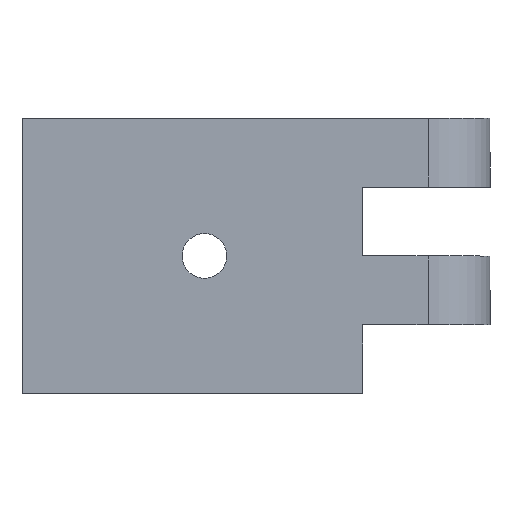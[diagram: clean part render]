
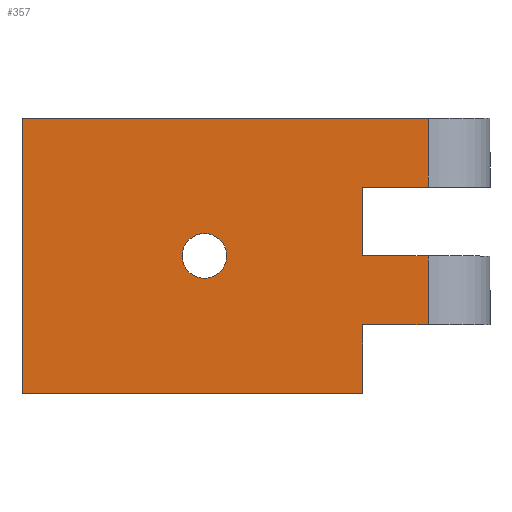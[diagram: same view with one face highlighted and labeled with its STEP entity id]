
A CAD part, top view. The second image highlights one B-rep face of the part: STEP entity #357.
In plain terms, the highlighted planar face has unit normal (0, 0, 1).
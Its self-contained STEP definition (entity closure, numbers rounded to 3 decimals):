
#13=DIRECTION('',(1.,0.,0.));
#14=VECTOR('',#13,49.5);
#15=CARTESIAN_POINT('',(-59.,-20.,0.));
#16=LINE('',#15,#14);
#21=DIRECTION('',(-1.,0.,0.));
#22=VECTOR('',#21,9.5);
#23=CARTESIAN_POINT('',(0.,10.,0.));
#24=LINE('',#23,#22);
#25=DIRECTION('',(0.,-1.,0.));
#26=VECTOR('',#25,10.);
#27=CARTESIAN_POINT('',(-9.5,10.,0.));
#28=LINE('',#27,#26);
#29=DIRECTION('',(-1.,0.,0.));
#30=VECTOR('',#29,9.5);
#31=CARTESIAN_POINT('',(0.,0.,0.));
#32=LINE('',#31,#30);
#33=DIRECTION('',(-1.,0.,0.));
#34=VECTOR('',#33,9.5);
#35=CARTESIAN_POINT('',(0.,-10.,0.));
#36=LINE('',#35,#34);
#37=DIRECTION('',(0.,1.,0.));
#38=VECTOR('',#37,10.);
#39=CARTESIAN_POINT('',(-9.5,-20.,0.));
#40=LINE('',#39,#38);
#41=DIRECTION('',(0.,1.,0.));
#42=VECTOR('',#41,40.);
#43=CARTESIAN_POINT('',(-59.,-20.,0.));
#44=LINE('',#43,#42);
#45=CARTESIAN_POINT('',(-32.5,0.,0.));
#46=DIRECTION('',(0.,0.,-1.));
#47=DIRECTION('',(1.,0.,0.));
#48=AXIS2_PLACEMENT_3D('',#45,#46,#47);
#50=CARTESIAN_POINT('',(-32.5,0.,0.));
#51=DIRECTION('',(0.,0.,-1.));
#52=DIRECTION('',(-1.,0.,0.));
#53=AXIS2_PLACEMENT_3D('',#50,#51,#52);
#70=DIRECTION('',(0.,1.,0.));
#71=VECTOR('',#70,10.);
#72=CARTESIAN_POINT('',(0.,10.,0.));
#73=LINE('',#72,#71);
#84=DIRECTION('',(0.,1.,0.));
#85=VECTOR('',#84,10.);
#86=CARTESIAN_POINT('',(0.,-10.,0.));
#87=LINE('',#86,#85);
#88=DIRECTION('',(1.,0.,0.));
#89=VECTOR('',#88,59.);
#90=CARTESIAN_POINT('',(-59.,20.,0.));
#91=LINE('',#90,#89);
#228=CARTESIAN_POINT('',(-59.,-20.,0.));
#230=VERTEX_POINT('',#228);
#231=CARTESIAN_POINT('',(-59.,20.,0.));
#232=CARTESIAN_POINT('',(0.,20.,0.));
#233=VERTEX_POINT('',#231);
#234=VERTEX_POINT('',#232);
#243=CARTESIAN_POINT('',(-9.5,-20.,0.));
#245=VERTEX_POINT('',#243);
#247=CARTESIAN_POINT('',(0.,10.,0.));
#248=CARTESIAN_POINT('',(-9.5,10.,0.));
#249=VERTEX_POINT('',#247);
#250=VERTEX_POINT('',#248);
#251=CARTESIAN_POINT('',(-9.5,0.,0.));
#252=VERTEX_POINT('',#251);
#253=CARTESIAN_POINT('',(0.,0.,0.));
#254=VERTEX_POINT('',#253);
#255=CARTESIAN_POINT('',(0.,-10.,0.));
#256=CARTESIAN_POINT('',(-9.5,-10.,0.));
#257=VERTEX_POINT('',#255);
#258=VERTEX_POINT('',#256);
#283=CARTESIAN_POINT('',(-29.25,0.,0.));
#284=CARTESIAN_POINT('',(-35.75,0.,0.));
#285=VERTEX_POINT('',#283);
#286=VERTEX_POINT('',#284);
#326=CARTESIAN_POINT('',(-59.,-20.,0.));
#327=DIRECTION('',(0.,0.,1.));
#328=DIRECTION('',(1.,0.,0.));
#329=AXIS2_PLACEMENT_3D('',#326,#327,#328);
#330=PLANE('',#329);
#332=ORIENTED_EDGE('',*,*,#331,.T.);
#334=ORIENTED_EDGE('',*,*,#333,.T.);
#336=ORIENTED_EDGE('',*,*,#335,.F.);
#338=ORIENTED_EDGE('',*,*,#337,.F.);
#340=ORIENTED_EDGE('',*,*,#339,.T.);
#341=ORIENTED_EDGE('',*,*,#317,.F.);
#342=ORIENTED_EDGE('',*,*,#306,.F.);
#344=ORIENTED_EDGE('',*,*,#343,.T.);
#346=ORIENTED_EDGE('',*,*,#345,.T.);
#348=ORIENTED_EDGE('',*,*,#347,.F.);
#349=EDGE_LOOP('',(#332,#334,#336,#338,#340,#341,#342,#344,#346,#348));
#350=FACE_OUTER_BOUND('',#349,.F.);
#352=ORIENTED_EDGE('',*,*,#351,.F.);
#354=ORIENTED_EDGE('',*,*,#353,.F.);
#355=EDGE_LOOP('',(#352,#354));
#356=FACE_BOUND('',#355,.F.);
#357=ADVANCED_FACE('',(#350,#356),#330,.T.);
#49=CIRCLE('',#48,3.25);
#54=CIRCLE('',#53,3.25);
#306=EDGE_CURVE('',#230,#245,#16,.T.);
#317=EDGE_CURVE('',#245,#258,#40,.T.);
#331=EDGE_CURVE('',#249,#250,#24,.T.);
#333=EDGE_CURVE('',#250,#252,#28,.T.);
#335=EDGE_CURVE('',#254,#252,#32,.T.);
#337=EDGE_CURVE('',#257,#254,#87,.T.);
#339=EDGE_CURVE('',#257,#258,#36,.T.);
#343=EDGE_CURVE('',#230,#233,#44,.T.);
#345=EDGE_CURVE('',#233,#234,#91,.T.);
#347=EDGE_CURVE('',#249,#234,#73,.T.);
#351=EDGE_CURVE('',#285,#286,#49,.T.);
#353=EDGE_CURVE('',#286,#285,#54,.T.);
